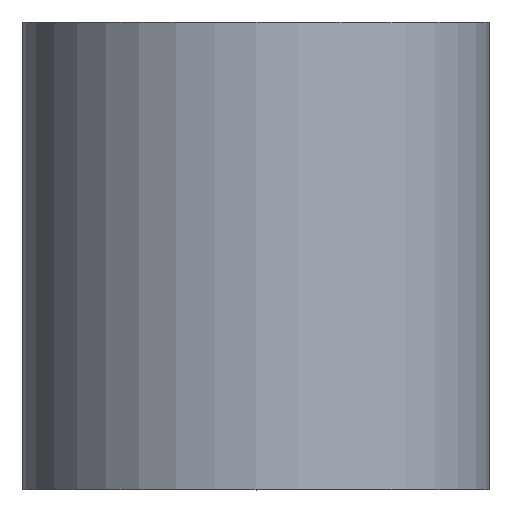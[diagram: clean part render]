
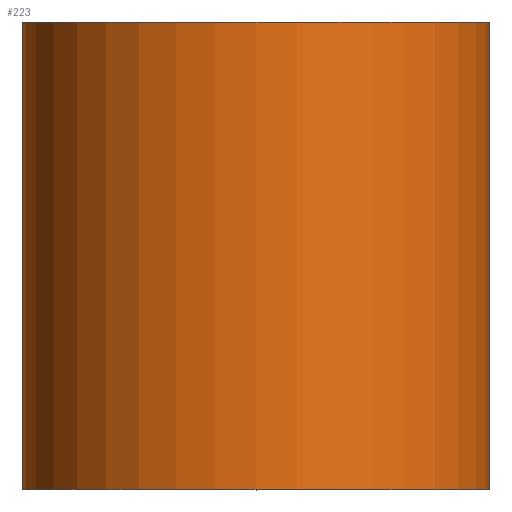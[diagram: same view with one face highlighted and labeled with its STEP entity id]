
A CAD part, top view. The second image highlights one B-rep face of the part: STEP entity #223.
In plain terms, the highlighted cylindrical face has radius 5 mm (diameter 10 mm), a partial arc.
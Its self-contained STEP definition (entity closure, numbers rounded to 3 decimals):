
#5 = AXIS2_PLACEMENT_3D ( 'NONE', #137, #10, #35 ) ;
#8 = VERTEX_POINT ( 'NONE', #121 ) ;
#10 = DIRECTION ( 'NONE',  ( 0., 1., 0. ) ) ;
#20 = LINE ( 'NONE', #269, #246 ) ;
#21 = ORIENTED_EDGE ( 'NONE', *, *, #225, .T. ) ;
#33 = CARTESIAN_POINT ( 'NONE',  ( 0., 10., 0. ) ) ;
#35 = DIRECTION ( 'NONE',  ( -1., 0., 0. ) ) ;
#43 = FACE_OUTER_BOUND ( 'NONE', #111, .T. ) ;
#47 = DIRECTION ( 'NONE',  ( 0., 1., 0. ) ) ;
#49 = DIRECTION ( 'NONE',  ( 0., 1., 0. ) ) ;
#53 = VERTEX_POINT ( 'NONE', #153 ) ;
#83 = DIRECTION ( 'NONE',  ( 0., 1., 0. ) ) ;
#100 = EDGE_CURVE ( 'NONE', #218, #53, #20, .T. ) ;
#102 = AXIS2_PLACEMENT_3D ( 'NONE', #271, #83, #208 ) ;
#110 = EDGE_CURVE ( 'NONE', #119, #8, #277, .T. ) ;
#111 = EDGE_LOOP ( 'NONE', ( #21, #233, #250, #178 ) ) ;
#119 = VERTEX_POINT ( 'NONE', #202 ) ;
#121 = CARTESIAN_POINT ( 'NONE',  ( -5., 10., 0. ) ) ;
#131 = CIRCLE ( 'NONE', #5, 5. ) ;
#137 = CARTESIAN_POINT ( 'NONE',  ( 0., 0., 0. ) ) ;
#153 = CARTESIAN_POINT ( 'NONE',  ( 5., 10., 0. ) ) ;
#178 = ORIENTED_EDGE ( 'NONE', *, *, #110, .F. ) ;
#189 = CIRCLE ( 'NONE', #203, 5. ) ;
#202 = CARTESIAN_POINT ( 'NONE',  ( -5., 0., 0. ) ) ;
#203 = AXIS2_PLACEMENT_3D ( 'NONE', #33, #293, #210 ) ;
#208 = DIRECTION ( 'NONE',  ( -1., 0., 0. ) ) ;
#210 = DIRECTION ( 'NONE',  ( -1., 0., 0. ) ) ;
#218 = VERTEX_POINT ( 'NONE', #248 ) ;
#223 = ADVANCED_FACE ( 'NONE', ( #43 ), #280, .T. ) ;
#225 = EDGE_CURVE ( 'NONE', #119, #218, #131, .T. ) ;
#230 = CARTESIAN_POINT ( 'NONE',  ( -5., 0., 0. ) ) ;
#233 = ORIENTED_EDGE ( 'NONE', *, *, #100, .T. ) ;
#246 = VECTOR ( 'NONE', #47, 1000. ) ;
#248 = CARTESIAN_POINT ( 'NONE',  ( 5., 0., 0. ) ) ;
#250 = ORIENTED_EDGE ( 'NONE', *, *, #267, .F. ) ;
#254 = VECTOR ( 'NONE', #49, 1000. ) ;
#267 = EDGE_CURVE ( 'NONE', #8, #53, #189, .T. ) ;
#269 = CARTESIAN_POINT ( 'NONE',  ( 5., 0., 0. ) ) ;
#271 = CARTESIAN_POINT ( 'NONE',  ( 0., 0., 0. ) ) ;
#277 = LINE ( 'NONE', #230, #254 ) ;
#280 = CYLINDRICAL_SURFACE ( 'NONE', #102, 5. ) ;
#293 = DIRECTION ( 'NONE',  ( 0., 1., 0. ) ) ;
